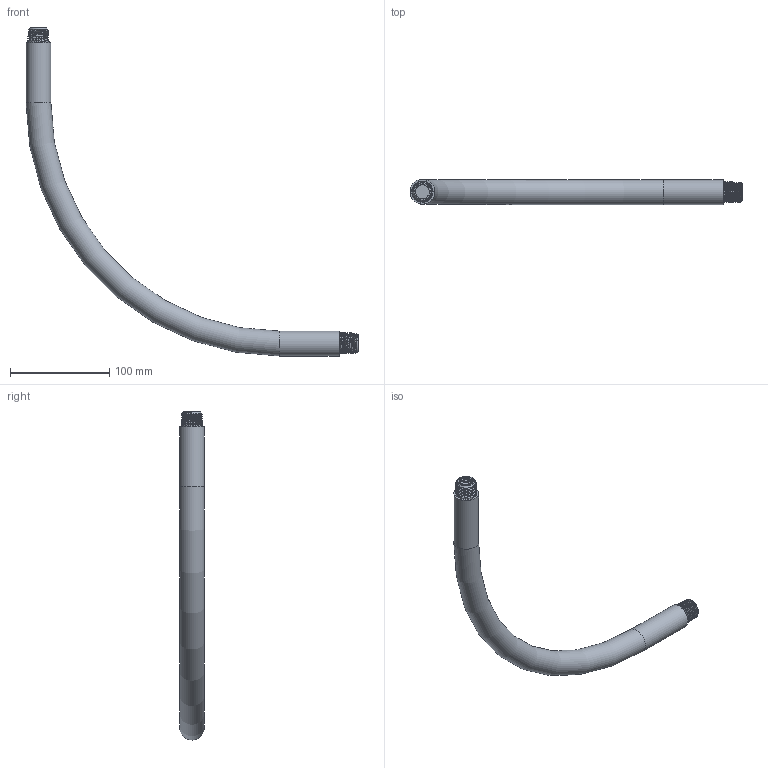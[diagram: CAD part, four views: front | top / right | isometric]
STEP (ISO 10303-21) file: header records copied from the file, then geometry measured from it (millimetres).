
FILE_DESCRIPTION(('HOOPS Exchange Step'),'2;1');
FILE_NAME('/private/var/mobile/Containers/Data/Application/1606885C-1F6A-4C16-ADE5-2EBBFD4A2795/tmp/export/temp_export','2024-08-12T09:04:46+02:00',('mobile'),('Shapr3D Limited'),'HOOPS Exchange 2024.2','Shapr3D','Authorized');
FILE_SCHEMA( ('AP242_MANAGED_MODEL_BASED_3D_ENGINEERING_MIM_LF {1 0 10303 442 1 1 4 }') );
Length unit declared in the file: millimetre
Products named in the file (6): 5357K22_Aluminum Barbed Hose Fitting.IGS; 1/2“ Gewinde; 3014N22_Plastic Garden Hose Fitting.IGS; R230.90°.x_t; root
Assembly tree (5 placements, depth 4):
  root
    R230.90°.x_t
      1/2“ Gewinde
        5357K22_Aluminum Barbed Hose Fitting.IGS
      1/2“ Gewinde
        3014N22_Plastic Garden Hose Fitting.IGS
Bounding box: 334 x 25 x 330 mm (x, y, z)
Volume: 245887.6 mm3; surface area: 44323.6 mm2
Topology: 1 solids, 3 shells, 56 faces, 154 edges, 104 vertices
Faces by surface type: bspline 47, plane 6, cylinder 2, torus 1
Full cylindrical faces by diameter (mm): 25 x2
Entity records: 27294 total; most frequent: CARTESIAN_POINT 26030, ORIENTED_EDGE 312, EDGE_CURVE 156, DIRECTION 114, VERTEX_POINT 104, B_SPLINE_CURVE_WITH_KNOTS 101, EDGE_LOOP 62, FACE_BOUND 62
